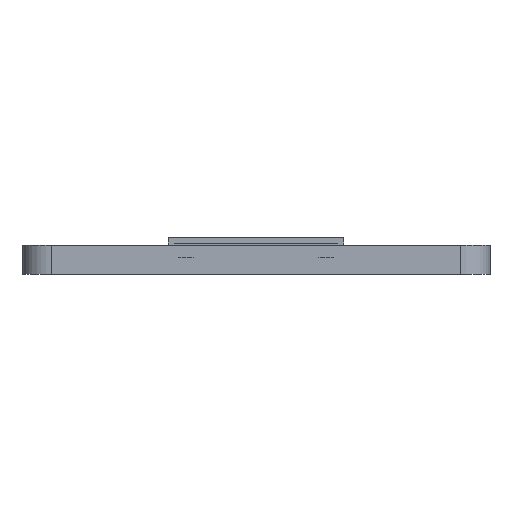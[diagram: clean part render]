
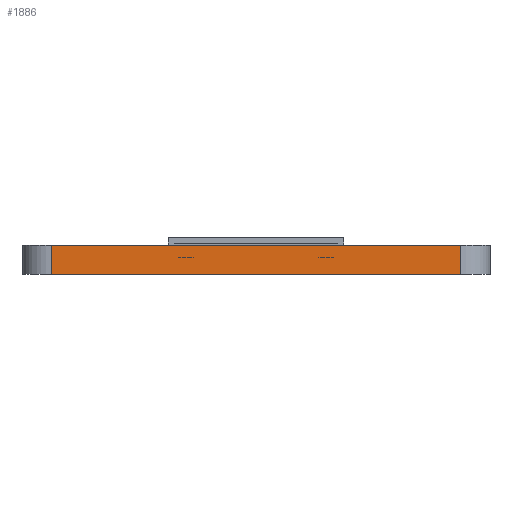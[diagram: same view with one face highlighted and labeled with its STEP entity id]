
A CAD part, front view. The second image highlights one B-rep face of the part: STEP entity #1886.
In plain terms, the highlighted planar face has unit normal (0, -1, 0).
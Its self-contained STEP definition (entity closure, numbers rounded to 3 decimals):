
#42 = ORIENTED_EDGE ( 'NONE', *, *, #2607, .T. ) ;
#91 = PLANE ( 'NONE',  #2114 ) ;
#182 = DIRECTION ( 'NONE',  ( 0., 0., -1. ) ) ;
#196 = CARTESIAN_POINT ( 'NONE',  ( -35., -115., 0. ) ) ;
#202 = EDGE_CURVE ( 'NONE', #668, #968, #2374, .T. ) ;
#208 = VERTEX_POINT ( 'NONE', #334 ) ;
#255 = DIRECTION ( 'NONE',  ( 0., 0., 1. ) ) ;
#278 = LINE ( 'NONE', #780, #3260 ) ;
#334 = CARTESIAN_POINT ( 'NONE',  ( -35., -115., 0. ) ) ;
#342 = ORIENTED_EDGE ( 'NONE', *, *, #1436, .F. ) ;
#666 = EDGE_CURVE ( 'NONE', #968, #1005, #278, .T. ) ;
#668 = VERTEX_POINT ( 'NONE', #2059 ) ;
#780 = CARTESIAN_POINT ( 'NONE',  ( 25., -115., 5. ) ) ;
#968 = VERTEX_POINT ( 'NONE', #1989 ) ;
#1005 = VERTEX_POINT ( 'NONE', #1711 ) ;
#1289 = FACE_OUTER_BOUND ( 'NONE', #3132, .T. ) ;
#1349 = DIRECTION ( 'NONE',  ( 0., 0., -1. ) ) ;
#1436 = EDGE_CURVE ( 'NONE', #668, #208, #2679, .T. ) ;
#1471 = CARTESIAN_POINT ( 'NONE',  ( 25., -115., 0. ) ) ;
#1692 = LINE ( 'NONE', #196, #1914 ) ;
#1711 = CARTESIAN_POINT ( 'NONE',  ( -35., -115., 5. ) ) ;
#1718 = ORIENTED_EDGE ( 'NONE', *, *, #666, .T. ) ;
#1886 = ADVANCED_FACE ( 'NONE', ( #1289 ), #91, .T. ) ;
#1914 = VECTOR ( 'NONE', #182, 1000. ) ;
#1989 = CARTESIAN_POINT ( 'NONE',  ( 35., -115., 5. ) ) ;
#2059 = CARTESIAN_POINT ( 'NONE',  ( 35., -115., 0. ) ) ;
#2114 = AXIS2_PLACEMENT_3D ( 'NONE', #2847, #2260, #1349 ) ;
#2213 = DIRECTION ( 'NONE',  ( -1., 0., 0. ) ) ;
#2260 = DIRECTION ( 'NONE',  ( 0., -1., 0. ) ) ;
#2280 = CARTESIAN_POINT ( 'NONE',  ( 35., -115., 5. ) ) ;
#2374 = LINE ( 'NONE', #2280, #2578 ) ;
#2554 = DIRECTION ( 'NONE',  ( -1., 0., 0. ) ) ;
#2578 = VECTOR ( 'NONE', #255, 1000. ) ;
#2607 = EDGE_CURVE ( 'NONE', #1005, #208, #1692, .T. ) ;
#2679 = LINE ( 'NONE', #1471, #3005 ) ;
#2833 = ORIENTED_EDGE ( 'NONE', *, *, #202, .T. ) ;
#2847 = CARTESIAN_POINT ( 'NONE',  ( 25., -115., 5. ) ) ;
#3005 = VECTOR ( 'NONE', #2213, 1000. ) ;
#3132 = EDGE_LOOP ( 'NONE', ( #342, #2833, #1718, #42 ) ) ;
#3260 = VECTOR ( 'NONE', #2554, 1000. ) ;
